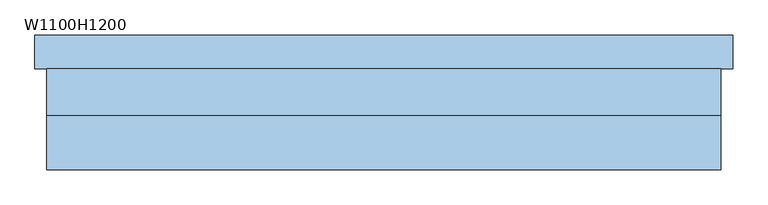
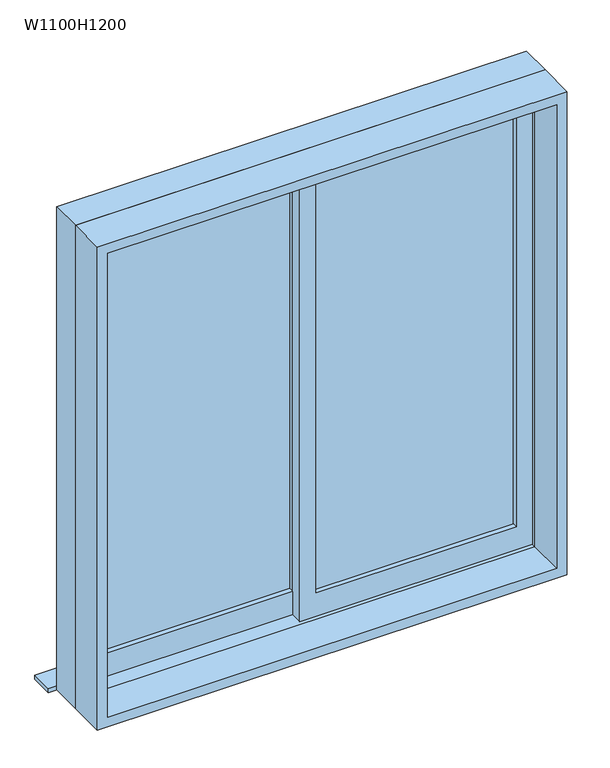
"""IFC4 building model written with IfcOpenShell, lengths in millimetres: window geometry, 引違い腰窓_2枚 : W1100H1200."""

from ifc_helpers import new_model, si_unit, frame, origin, place, context, project, spatial, polyline, outline, extrude, source, transform, mapped, element, save


def w1100h1200_91eb5f9d(model_context):
    return source(origin(), model_context, "Body", "SweptSolid", [
        extrude(outline(polyline([(-20.0, 12.5), (-510.0, 12.5), (-510.0, 17.5), (-20.0, 17.5), (-20.0, 12.5)])), frame((0.0, 0.0, 1010.0), z_axis=(0.0, 0.0, 1.0), x_axis=(1.0, 0.0, 0.0)), (0.0, 0.0, 1.0), 1100.0),
        extrude(outline(polyline([(510.0, -17.5), (20.0, -17.5), (20.0, -12.5), (510.0, -12.5), (510.0, -17.5)])), frame((0.0, 0.0, 1010.0), z_axis=(0.0, 0.0, 1.0), x_axis=(1.0, 0.0, 0.0)), (0.0, 0.0, 1.0), 1100.0),
        extrude(outline(polyline([(2150.0, -20.0), (950.0, -20.0), (950.0, 550.0), (2150.0, 550.0), (2150.0, -20.0)]), holes=[polyline([(1010.0, 510.0), (1010.0, 20.0), (2110.0, 20.0), (2110.0, 510.0), (1010.0, 510.0)])]), frame((0.0, -30.0, 0.0), z_axis=(0.0, 1.0, 0.0), x_axis=(0.0, 0.0, 1.0)), (0.0, 0.0, 1.0), 30.0),
        extrude(outline(polyline([(2150.0, -550.0), (950.0, -550.0), (950.0, 20.0), (2150.0, 20.0), (2150.0, -550.0)]), holes=[polyline([(1010.0, -20.0), (1010.0, -510.0), (2110.0, -510.0), (2110.0, -20.0), (1010.0, -20.0)])]), frame((0.0, 0.0, 0.0), z_axis=(0.0, 1.0, 0.0), x_axis=(0.0, 0.0, 1.0)), (0.0, 0.0, 1.0), 30.0),
        extrude(outline(polyline([(595.0, 97.5), (595.0, 40.0), (-595.0, 40.0), (-595.0, 97.5), (595.0, 97.5)])), frame((0.0, 0.0, 925.0), z_axis=(0.0, 0.0, 1.0), x_axis=(1.0, 0.0, 0.0)), (0.0, 0.0, 1.0), 10.0),
        extrude(outline(polyline([(2175.0, 575.0), (2175.0, -575.0), (925.0, -575.0), (925.0, 575.0), (2175.0, 575.0)]), holes=[polyline([(950.0, -550.0), (2150.0, -550.0), (2150.0, 550.0), (950.0, 550.0), (950.0, -550.0)])]), frame((0.0, -132.5, 0.0), z_axis=(0.0, 1.0, 0.0), x_axis=(0.0, 0.0, 1.0)), (0.0, 0.0, 1.0), 92.5),
        extrude(outline(polyline([(2175.0, -575.0), (925.0, -575.0), (925.0, 575.0), (2175.0, 575.0), (2175.0, -575.0)]), holes=[polyline([(2150.0, 550.0), (950.0, 550.0), (950.0, -550.0), (2150.0, -550.0), (2150.0, 550.0)])]), frame((0.0, -40.0, 0.0), z_axis=(0.0, 1.0, 0.0), x_axis=(0.0, 0.0, 1.0)), (0.0, 0.0, 1.0), 80.0),
    ])


if __name__ == "__main__":
    model = new_model("IFC4")
    model_context = context("Model", 3, world=origin())
    ifc_project = project(units=[si_unit("LENGTHUNIT", "METRE", prefix="MILLI")], contexts=[model_context])
    site = spatial("IfcSite", under=ifc_project)
    building = spatial("IfcBuilding", under=site)
    placement = place(None, origin())
    w1100h1200_shape = w1100h1200_91eb5f9d(model_context)
    element("IfcWindow", 1, ObjectType="引違い腰窓_2枚 : W1100H1200", at=placement, inside=building, context=model_context, shape_type="MappedRepresentation", body=[
        mapped(w1100h1200_shape, transform((0.0, 0.0, 0.0), x_axis=(1.0, 0.0, 0.0), y_axis=(0.0, 1.0, 0.0), z_axis=(0.0, 0.0, 1.0))),
    ])
    save(model, "model.ifc")
